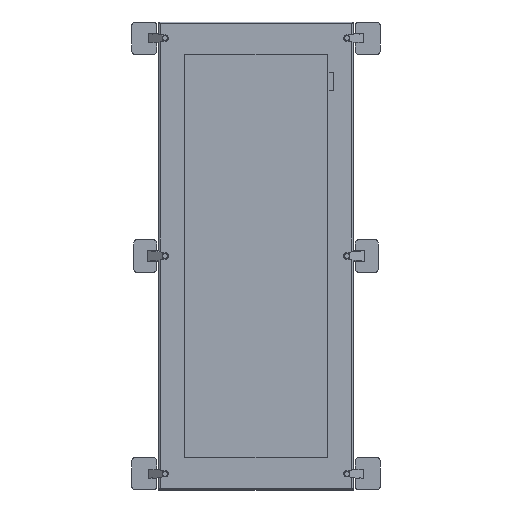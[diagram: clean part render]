
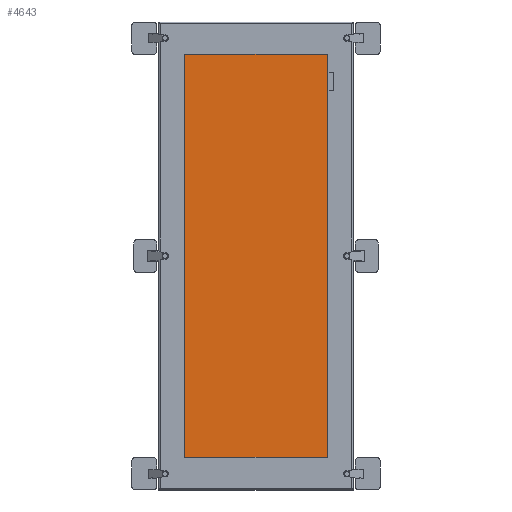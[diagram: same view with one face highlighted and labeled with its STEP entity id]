
A CAD part, top view. The second image highlights one B-rep face of the part: STEP entity #4643.
In plain terms, the highlighted planar face has unit normal (0, 0, 1).
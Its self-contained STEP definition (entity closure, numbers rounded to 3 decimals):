
#411=FACE_OUTER_BOUND('',#694,.T.);
#694=EDGE_LOOP('',(#3545,#3546,#3547,#3548));
#1118=LINE('',#7161,#1628);
#1121=LINE('',#7167,#1631);
#1124=LINE('',#7173,#1634);
#1127=LINE('',#7177,#1637);
#1628=VECTOR('',#5825,10.);
#1631=VECTOR('',#5830,10.);
#1634=VECTOR('',#5835,10.);
#1637=VECTOR('',#5840,10.);
#2058=VERTEX_POINT('',#7158);
#2059=VERTEX_POINT('',#7160);
#2061=VERTEX_POINT('',#7166);
#2063=VERTEX_POINT('',#7172);
#2570=EDGE_CURVE('',#2059,#2058,#1118,.T.);
#2573=EDGE_CURVE('',#2061,#2059,#1121,.T.);
#2576=EDGE_CURVE('',#2063,#2061,#1124,.T.);
#2579=EDGE_CURVE('',#2058,#2063,#1127,.T.);
#3545=ORIENTED_EDGE('',*,*,#2579,.T.);
#3546=ORIENTED_EDGE('',*,*,#2576,.T.);
#3547=ORIENTED_EDGE('',*,*,#2573,.T.);
#3548=ORIENTED_EDGE('',*,*,#2570,.T.);
#4200=PLANE('',#4967);
#4643=ADVANCED_FACE('',(#411),#4200,.T.);
#4967=AXIS2_PLACEMENT_3D('',#7178,#5841,#5842);
#5825=DIRECTION('',(0.,-1.,0.));
#5830=DIRECTION('',(-1.,0.,0.));
#5835=DIRECTION('',(0.,1.,0.));
#5840=DIRECTION('',(1.,0.,0.));
#5841=DIRECTION('center_axis',(0.,0.,1.));
#5842=DIRECTION('ref_axis',(1.,0.,0.));
#7158=CARTESIAN_POINT('',(-110.,-310.,67.));
#7160=CARTESIAN_POINT('',(-110.,310.,67.));
#7161=CARTESIAN_POINT('',(-110.,310.,67.));
#7166=CARTESIAN_POINT('',(110.,310.,67.));
#7167=CARTESIAN_POINT('',(110.,310.,67.));
#7172=CARTESIAN_POINT('',(110.,-310.,67.));
#7173=CARTESIAN_POINT('',(110.,-310.,67.));
#7177=CARTESIAN_POINT('',(-110.,-310.,67.));
#7178=CARTESIAN_POINT('Origin',(0.,0.,
67.));
